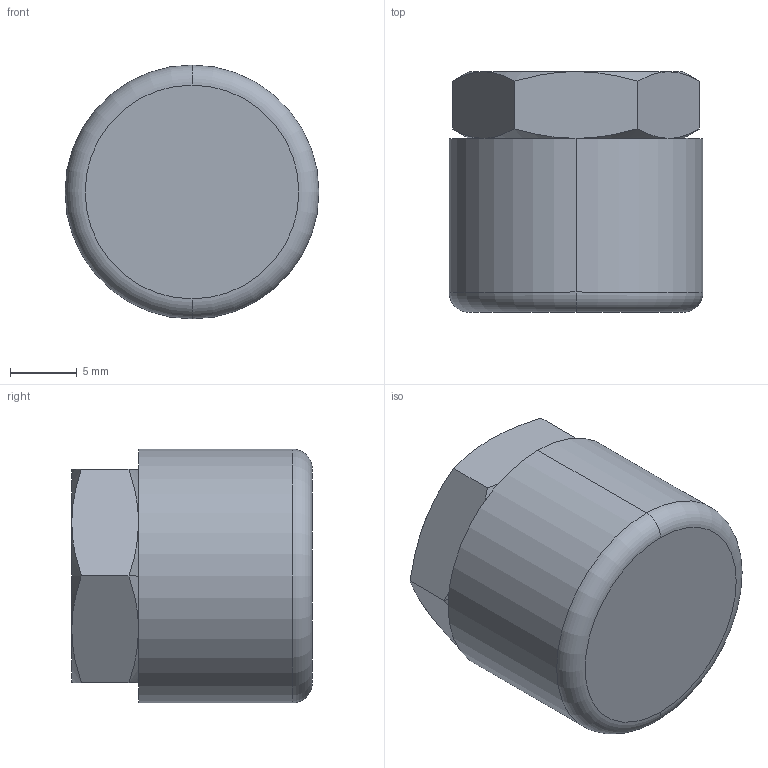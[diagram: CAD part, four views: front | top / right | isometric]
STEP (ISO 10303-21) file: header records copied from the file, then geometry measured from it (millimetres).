
FILE_DESCRIPTION (( 'STEP AP214' ), '1' );
FILE_NAME ('806-19-B.step', '2023-03-24T08:51:04', ( '' ), ( '' ), 'SwSTEP 2.0', 'SolidWorks 2022', '' );
FILE_SCHEMA (( 'AUTOMOTIVE_DESIGN' ));
Length unit declared in the file: millimetre
Products named in the file (1): 806-19-B
Bounding box: 19 x 18 x 19 mm (x, y, z)
Volume: 4330 mm3; surface area: 1860.4 mm2
Topology: 1 solids, 1 shells, 30 faces, 62 edges, 36 vertices
Faces by surface type: cone 14, plane 10, cylinder 4, torus 2
Entity records: 1159 total; most frequent: CARTESIAN_POINT 265, DIRECTION 126, ORIENTED_EDGE 124, EDGE_CURVE 62, AXIS2_PLACEMENT_3D 57, VERTEX_POINT 36, EDGE_LOOP 32, FACE_OUTER_BOUND 30
